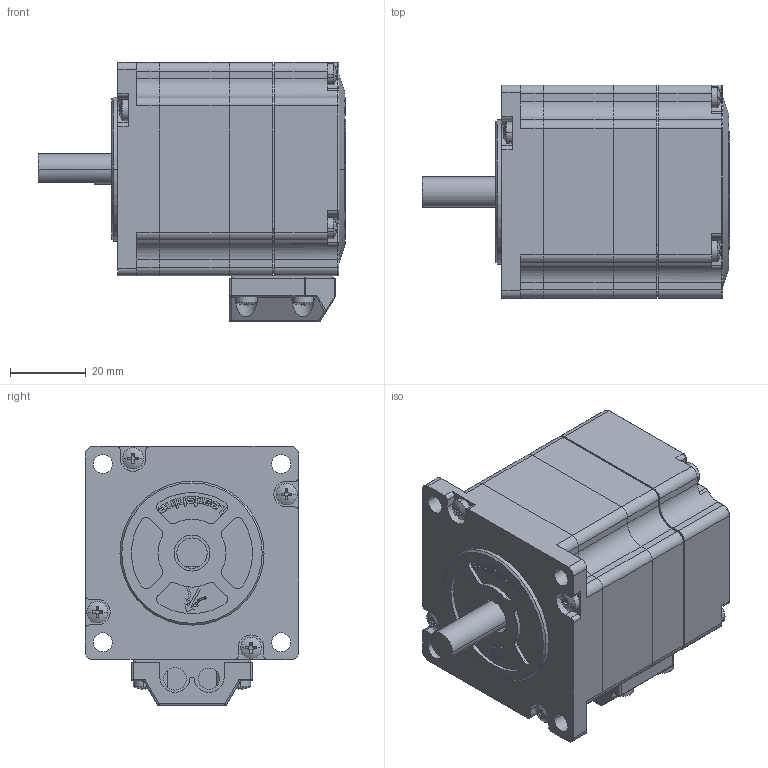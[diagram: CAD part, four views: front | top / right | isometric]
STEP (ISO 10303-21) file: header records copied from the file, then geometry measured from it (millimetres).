
FILE_DESCRIPTION (( 'STEP AP203' ), '1' );
FILE_NAME ('57CME06.STEP', '2017-10-25T03:08:12', ( '' ), ( '' ), 'SwSTEP 2.0', 'SolidWorks 2016', '' );
FILE_SCHEMA (( 'CONFIG_CONTROL_DESIGN' ));
Length unit declared in the file: millimetre
Products named in the file (1): 57CME06
Bounding box: 81.3 x 56.4 x 68.5 mm (x, y, z)
Volume: 87915.9 mm3; surface area: 70258.2 mm2
Topology: 32 solids, 32 shells, 3189 faces, 8383 edges, 5415 vertices
Faces by surface type: plane 1456, cylinder 994, bspline 406, cone 257, sphere 46, torus 30
Entity records: 109374 total; most frequent: CARTESIAN_POINT 31538, ORIENTED_EDGE 16750, DIRECTION 15372, EDGE_CURVE 8375, VERTEX_POINT 5415, AXIS2_PLACEMENT_3D 5221, VECTOR 4930, LINE 4930
